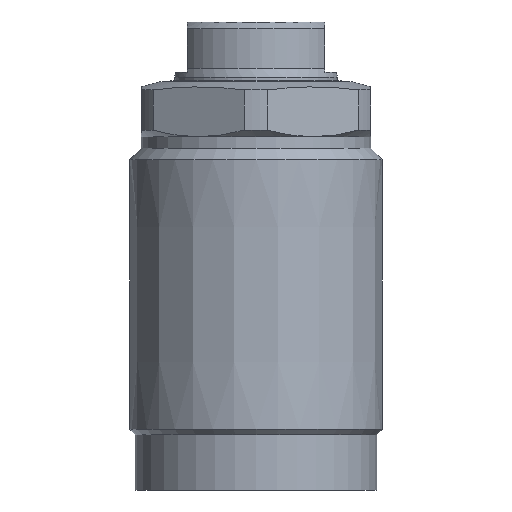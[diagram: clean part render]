
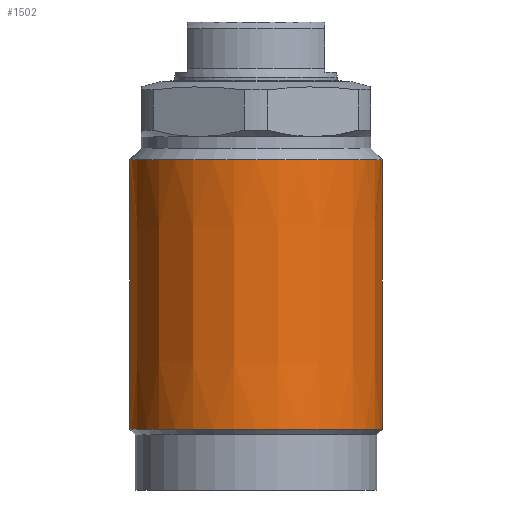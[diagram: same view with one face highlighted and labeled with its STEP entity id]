
A CAD part, front view. The second image highlights one B-rep face of the part: STEP entity #1502.
In plain terms, the highlighted conical face has half-angle 0 degrees and reference radius 27.5 mm.
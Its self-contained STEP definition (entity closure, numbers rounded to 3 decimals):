
#1439=CARTESIAN_POINT('',(-27.5,0.0,-75.8));
#1440=VERTEX_POINT('',#1439);
#1448=CARTESIAN_POINT('',(27.5,0.0,-75.8));
#1449=VERTEX_POINT('',#1448);
#1456=CARTESIAN_POINT('',(-0.0,0.0,-75.8));
#1457=DIRECTION('',(0.0,0.0,1.0));
#1458=DIRECTION('',(1.0,0.0,0.0));
#1459=AXIS2_PLACEMENT_3D('',#1456,#1457,#1458);
#1460=CIRCLE('',#1459,27.5);
#1461=EDGE_CURVE('no 2333',#1440,#1449,#1460,.T.);
#1471=CARTESIAN_POINT('',(27.5,0.0,-17.));
#1472=VERTEX_POINT('',#1471);
#1473=CARTESIAN_POINT('',(27.5,0.0,-17.));
#1474=DIRECTION('',(0.,0.0,-1.0));
#1475=VECTOR('',#1474,1.0);
#1476=LINE('',#1473,#1475);
#1477=EDGE_CURVE('no 2343',#1472,#1449,#1476,.T.);
#1478=ORIENTED_EDGE('',*,*,#1477,.F.);
#1479=CARTESIAN_POINT('',(-27.5,0.0,-17.));
#1480=VERTEX_POINT('',#1479);
#1481=CARTESIAN_POINT('',(-0.0,0.0,-17.));
#1482=DIRECTION('',(0.0,0.0,1.0));
#1483=DIRECTION('',(1.0,0.0,0.0));
#1484=AXIS2_PLACEMENT_3D('',#1481,#1482,#1483);
#1485=CIRCLE('',#1484,27.5);
#1486=EDGE_CURVE('no 2349',#1480,#1472,#1485,.T.);
#1487=ORIENTED_EDGE('',*,*,#1486,.F.);
#1488=CARTESIAN_POINT('',(-27.5,0.0,-17.));
#1489=DIRECTION('',(0.,0.0,-1.0));
#1490=VECTOR('',#1489,1.0);
#1491=LINE('',#1488,#1490);
#1492=EDGE_CURVE('no 2353',#1480,#1440,#1491,.T.);
#1493=ORIENTED_EDGE('',*,*,#1492,.T.);
#1494=ORIENTED_EDGE('',*,*,#1461,.T.);
#1495=EDGE_LOOP('',(#1478,#1487,#1493,#1494));
#1496=FACE_OUTER_BOUND('',#1495,.T.);
#1497=CARTESIAN_POINT('',(-0.0,0.0,-75.8));
#1498=DIRECTION('',(0.0,0.0,-1.0));
#1499=DIRECTION('',(-0.0,1.0,0.0));
#1500=AXIS2_PLACEMENT_3D('',#1497,#1498,#1499);
#1501=CONICAL_SURFACE('',#1500,27.5,0.);
#1502=ADVANCED_FACE('no 2336',(#1496),#1501,.T.);
